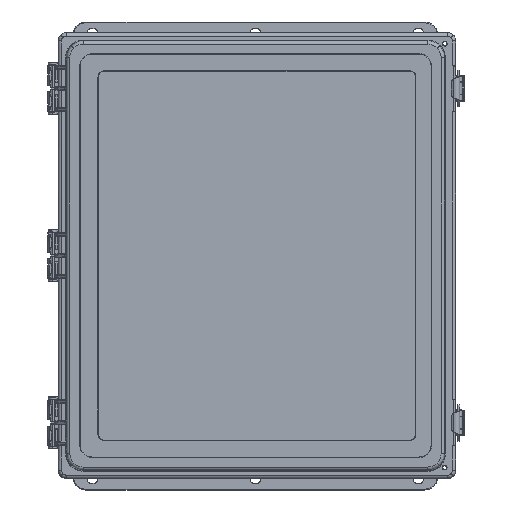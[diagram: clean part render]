
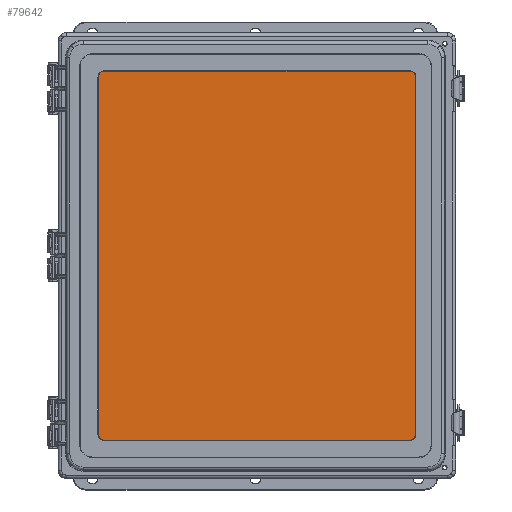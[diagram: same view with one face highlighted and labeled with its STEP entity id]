
A CAD part, top view. The second image highlights one B-rep face of the part: STEP entity #79642.
In plain terms, the highlighted planar face has unit normal (0, 0, 1) as drawn and (0, 0, -1) by its records, which use the part's own axes.
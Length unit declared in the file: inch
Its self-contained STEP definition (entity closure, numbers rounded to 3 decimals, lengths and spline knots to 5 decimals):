
#2017 = EDGE_CURVE ( 'NONE', #3103, #149166, #20828, .T. ) ;
#3103 = VERTEX_POINT ( 'NONE', #113765 ) ;
#3271 = DIRECTION ( 'NONE',  ( 0., 0., -1. ) ) ;
#3676 = CARTESIAN_POINT ( 'NONE',  ( -6.115, 7.115, 0. ) ) ;
#4798 = DIRECTION ( 'NONE',  ( -1., 0., 0. ) ) ;
#6479 = AXIS2_PLACEMENT_3D ( 'NONE', #58800, #149291, #71786 ) ;
#6597 = VERTEX_POINT ( 'NONE', #7918 ) ;
#6971 = CARTESIAN_POINT ( 'NONE',  ( -5.865, -6.865, 0. ) ) ;
#7918 = CARTESIAN_POINT ( 'NONE',  ( 5.865, 7.115, 0. ) ) ;
#11856 = EDGE_CURVE ( 'NONE', #129739, #100502, #26142, .T. ) ;
#16428 = EDGE_CURVE ( 'NONE', #142300, #20509, #160696, .T. ) ;
#19961 = DIRECTION ( 'NONE',  ( 1., 0., 0. ) ) ;
#20219 = CARTESIAN_POINT ( 'NONE',  ( -6.115, -7.115, 0. ) ) ;
#20509 = VERTEX_POINT ( 'NONE', #54602 ) ;
#20828 = LINE ( 'NONE', #120390, #85468 ) ;
#22167 = LINE ( 'NONE', #3676, #52461 ) ;
#23049 = AXIS2_PLACEMENT_3D ( 'NONE', #80600, #3271, #93592 ) ;
#26142 = CIRCLE ( 'NONE', #23049, 0.25 ) ;
#26903 = VERTEX_POINT ( 'NONE', #138736 ) ;
#29143 = ORIENTED_EDGE ( 'NONE', *, *, #16428, .F. ) ;
#33198 = DIRECTION ( 'NONE',  ( 0., 0., 1. ) ) ;
#39092 = EDGE_CURVE ( 'NONE', #6597, #20509, #111209, .T. ) ;
#41762 = ORIENTED_EDGE ( 'NONE', *, *, #39092, .T. ) ;
#44714 = ORIENTED_EDGE ( 'NONE', *, *, #97224, .T. ) ;
#52461 = VECTOR ( 'NONE', #4798, 39.37008 ) ;
#52726 = ORIENTED_EDGE ( 'NONE', *, *, #98967, .T. ) ;
#54602 = CARTESIAN_POINT ( 'NONE',  ( 6.115, 6.865, 0. ) ) ;
#57405 = VECTOR ( 'NONE', #64567, 39.37008 ) ;
#58800 = CARTESIAN_POINT ( 'NONE',  ( 5.865, -6.865, 0. ) ) ;
#61475 = LINE ( 'NONE', #77544, #57405 ) ;
#61622 = VECTOR ( 'NONE', #61757, 39.37008 ) ;
#61757 = DIRECTION ( 'NONE',  ( 0., 1., 0. ) ) ;
#64567 = DIRECTION ( 'NONE',  ( 0., -1., 0. ) ) ;
#69433 = DIRECTION ( 'NONE',  ( 1., 0., 0. ) ) ;
#70594 = CARTESIAN_POINT ( 'NONE',  ( -5.865, 7.115, 0. ) ) ;
#70860 = CARTESIAN_POINT ( 'NONE',  ( 5.865, -7.115, 0. ) ) ;
#71786 = DIRECTION ( 'NONE',  ( 1., 0., 0. ) ) ;
#75090 = DIRECTION ( 'NONE',  ( 0., 0., -1. ) ) ;
#77544 = CARTESIAN_POINT ( 'NONE',  ( -6.115, 7.115, 0. ) ) ;
#79642 = ADVANCED_FACE ( 'NONE', ( #136696 ), #162026, .F. ) ;
#80600 = CARTESIAN_POINT ( 'NONE',  ( -5.865, 6.865, 0. ) ) ;
#85468 = VECTOR ( 'NONE', #69433, 39.37008 ) ;
#90167 = CIRCLE ( 'NONE', #6479, 0.25 ) ;
#93592 = DIRECTION ( 'NONE',  ( 1., 0., 0. ) ) ;
#97224 = EDGE_CURVE ( 'NONE', #3103, #26903, #114913, .T. ) ;
#97297 = DIRECTION ( 'NONE',  ( 0., 0., -1. ) ) ;
#98967 = EDGE_CURVE ( 'NONE', #142300, #149166, #90167, .T. ) ;
#100502 = VERTEX_POINT ( 'NONE', #70594 ) ;
#103623 = ORIENTED_EDGE ( 'NONE', *, *, #11856, .T. ) ;
#109476 = AXIS2_PLACEMENT_3D ( 'NONE', #152571, #75090, #165529 ) ;
#111209 = CIRCLE ( 'NONE', #109476, 0.25 ) ;
#113765 = CARTESIAN_POINT ( 'NONE',  ( -5.865, -7.115, 0. ) ) ;
#114913 = CIRCLE ( 'NONE', #132957, 0.25 ) ;
#120390 = CARTESIAN_POINT ( 'NONE',  ( -6.115, -7.115, 0. ) ) ;
#123630 = DIRECTION ( 'NONE',  ( 1., 0., 0. ) ) ;
#129549 = CARTESIAN_POINT ( 'NONE',  ( -6.115, 6.865, 0. ) ) ;
#129739 = VERTEX_POINT ( 'NONE', #129549 ) ;
#129986 = EDGE_LOOP ( 'NONE', ( #29143, #52726, #140889, #44714, #131283, #103623, #136202, #41762 ) ) ;
#131283 = ORIENTED_EDGE ( 'NONE', *, *, #165775, .F. ) ;
#132957 = AXIS2_PLACEMENT_3D ( 'NONE', #6971, #97297, #19961 ) ;
#136202 = ORIENTED_EDGE ( 'NONE', *, *, #136997, .F. ) ;
#136696 = FACE_OUTER_BOUND ( 'NONE', #129986, .T. ) ;
#136997 = EDGE_CURVE ( 'NONE', #6597, #100502, #22167, .T. ) ;
#138736 = CARTESIAN_POINT ( 'NONE',  ( -6.115, -6.865, 0. ) ) ;
#139254 = CARTESIAN_POINT ( 'NONE',  ( 6.115, 7.115, 0. ) ) ;
#140889 = ORIENTED_EDGE ( 'NONE', *, *, #2017, .F. ) ;
#142161 = CARTESIAN_POINT ( 'NONE',  ( 6.115, -6.865, 0. ) ) ;
#142300 = VERTEX_POINT ( 'NONE', #142161 ) ;
#149166 = VERTEX_POINT ( 'NONE', #70860 ) ;
#149291 = DIRECTION ( 'NONE',  ( 0., 0., -1. ) ) ;
#152571 = CARTESIAN_POINT ( 'NONE',  ( 5.865, 6.865, 0. ) ) ;
#160696 = LINE ( 'NONE', #139254, #61622 ) ;
#162026 = PLANE ( 'NONE',  #165727 ) ;
#165529 = DIRECTION ( 'NONE',  ( 1., 0., 0. ) ) ;
#165727 = AXIS2_PLACEMENT_3D ( 'NONE', #20219, #33198, #123630 ) ;
#165775 = EDGE_CURVE ( 'NONE', #129739, #26903, #61475, .T. ) ;
